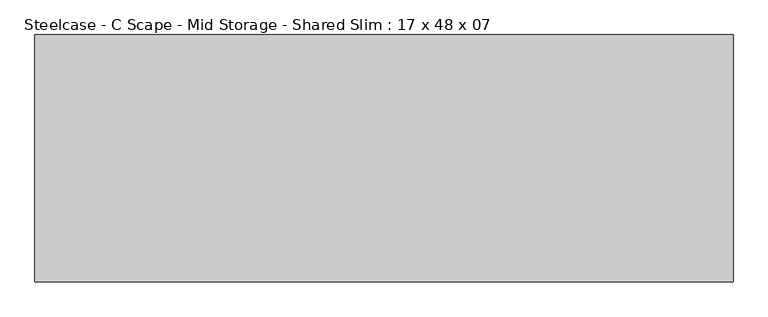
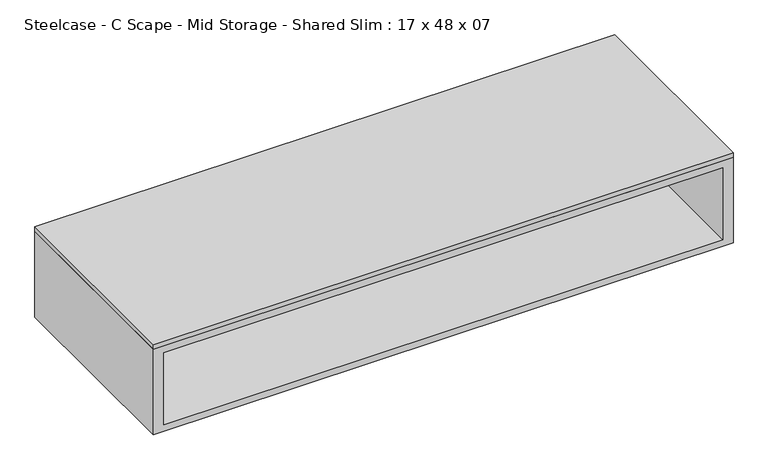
"""IFC4 building model written with IfcOpenShell, lengths in millimetres: furniture geometry, Steelcase - C Scape - Mid Storage - Shared Slim : 17 x 48 x 07."""

import ifcopenshell
import ifcopenshell.guid

model = None  # the IFC model being written
_history = None  # IfcOwnerHistory: only IFC2X3 demands one
_inside = {}  # id of a spatial element -> (the spatial element, [elements in it])
_under = {}  # id of a project, library or spatial element -> (it, [spatial elements below it])
_declared = {}  # id of a project -> (the project, [libraries it declares])
_typed = {}  # id of a type object -> (the type object, [elements of that type])
_made_of = {}  # id of a material, layer set ... -> (it, [elements and type objects made of it])


def new_model(schema):
    """Start an empty IFC model of exactly this schema.

    Asked for "IFC4X3", IfcOpenShell would pick the latest addendum, in which some entities
    have other attributes; the version numbers below select the first issue.
    IFC2X3 requires an IfcOwnerHistory on every rooted entity: one is made here for all.
    """
    global model, _history
    if schema == "IFC4X3":
        model = ifcopenshell.file(schema_version=(4, 3, 0, 0))
    else:
        model = ifcopenshell.file(schema=schema)
    _inside.clear()
    _under.clear()
    _declared.clear()
    _typed.clear()
    _made_of.clear()
    _history = None
    if model.schema == "IFC2X3":
        org = make("IfcOrganization", Name="unknown")
        user = make(
            "IfcPersonAndOrganization",
            ThePerson=make("IfcPerson", FamilyName="unknown"),
            TheOrganization=org,
        )
        app = make(
            "IfcApplication",
            ApplicationDeveloper=org,
            Version="unknown",
            ApplicationFullName="unknown",
            ApplicationIdentifier="unknown",
        )
        _history = make(
            "IfcOwnerHistory",
            OwningUser=user,
            OwningApplication=app,
            ChangeAction="ADDED",
            CreationDate=0,
        )
    return model


def make(cls, **values):
    """One entity of the class cls with the attributes given. An attribute that is None is left unset."""
    return model.create_entity(
        cls, **{name: value for name, value in values.items() if value is not None}
    )


def rooted(cls, **values):
    """An entity with a GlobalId (a new one), such as an element, a storey or a relation."""
    return make(cls, GlobalId=ifcopenshell.guid.new(), OwnerHistory=_history, **values)


def si_unit(unit_type, name, prefix=None):
    """IfcSIUnit, for example si_unit("LENGTHUNIT", "METRE", prefix="MILLI")."""
    return make("IfcSIUnit", UnitType=unit_type, Prefix=prefix, Name=name)


def assignment(units):
    """IfcUnitAssignment: the units of a project."""
    return None if units is None else make("IfcUnitAssignment", Units=units)


def point(xyz):
    """IfcCartesianPoint."""
    return None if xyz is None else make("IfcCartesianPoint", Coordinates=xyz)


def direction(xyz):
    """IfcDirection."""
    return None if xyz is None else make("IfcDirection", DirectionRatios=xyz)


def frame(location, z_axis=None, x_axis=None):
    """IfcAxis2Placement3D, a coordinate frame: its origin and axes. An axis left out is left unset."""
    return make(
        "IfcAxis2Placement3D",
        Location=point(location),
        Axis=direction(z_axis),
        RefDirection=direction(x_axis),
    )


def origin():
    """The frame at (0, 0, 0) with its axes left unset."""
    return frame((0.0, 0.0, 0.0))


def place(relative_to, where):
    """IfcLocalPlacement: puts the frame where relative to a parent placement (None: the world)."""
    return make(
        "IfcLocalPlacement", PlacementRelTo=relative_to, RelativePlacement=where
    )


def context(
    kind, dimensions, precision=None, world=None, true_north=None, identifier=None
):
    """IfcGeometricRepresentationContext, for example the 3D "Model" context."""
    return make(
        "IfcGeometricRepresentationContext",
        ContextIdentifier=identifier,
        ContextType=kind,
        CoordinateSpaceDimension=dimensions,
        Precision=precision,
        WorldCoordinateSystem=world,
        TrueNorth=true_north,
    )


def project(units=None, contexts=None):
    """IfcProject with its units and contexts."""
    return rooted(
        "IfcProject",
        Name="project",
        RepresentationContexts=contexts,
        UnitsInContext=assignment(units),
    )


def spatial(cls, under=None, at=None, **own):
    """A site, building, storey or space (cls), placed at a placement, below another one or the project."""
    s = rooted(cls, ObjectPlacement=at, **own)
    if under is not None:
        _under.setdefault(under.id(), (under, []))[1].append(s)
    return s


def polyline(points):
    """IfcPolyline through the points."""
    return make("IfcPolyline", Points=[point(p) for p in points])


def outline(outer, holes=None, kind="AREA"):
    """IfcArbitraryClosedProfileDef: a profile drawn as a closed curve; with holes, ...WithVoids."""
    if holes is None:
        return make("IfcArbitraryClosedProfileDef", ProfileType=kind, OuterCurve=outer)
    return make(
        "IfcArbitraryProfileDefWithVoids",
        ProfileType=kind,
        OuterCurve=outer,
        InnerCurves=holes,
    )


def extrude(swept, where, along, depth):
    """IfcExtrudedAreaSolid: the profile swept, set in the frame where, extruded along a direction by depth."""
    return make(
        "IfcExtrudedAreaSolid",
        SweptArea=swept,
        Position=where,
        ExtrudedDirection=direction(along),
        Depth=depth,
    )


def shape(context_of_items, identifier, shape_type, items):
    """IfcShapeRepresentation: the items that make up one representation, for example the "Body"."""
    return make(
        "IfcShapeRepresentation",
        ContextOfItems=context_of_items,
        RepresentationIdentifier=identifier,
        RepresentationType=shape_type,
        Items=items,
    )


def source(mapping_origin, context_of_items, identifier, shape_type, items):
    """IfcRepresentationMap: a shape defined once, which mapped items show again and again."""
    return make(
        "IfcRepresentationMap",
        MappingOrigin=mapping_origin,
        MappedRepresentation=shape(context_of_items, identifier, shape_type, items),
    )


def transform(
    local_origin,
    x_axis=None,
    y_axis=None,
    z_axis=None,
    scale=None,
    scale2=None,
    scale3=None,
    uniform=True,
):
    """IfcCartesianTransformationOperator3D, or its non-uniform kind. x_axis, y_axis, z_axis: its Axis1, 2, 3."""
    if uniform:
        return make(
            "IfcCartesianTransformationOperator3D",
            Axis1=direction(x_axis),
            Axis2=direction(y_axis),
            LocalOrigin=point(local_origin),
            Scale=scale,
            Axis3=direction(z_axis),
        )
    return make(
        "IfcCartesianTransformationOperator3DnonUniform",
        Axis1=direction(x_axis),
        Axis2=direction(y_axis),
        LocalOrigin=point(local_origin),
        Scale=scale,
        Axis3=direction(z_axis),
        Scale2=scale2,
        Scale3=scale3,
    )


def mapped(mapping_source, mapping_target):
    """IfcMappedItem: shows the shape of a source again, moved by a transform."""
    return make(
        "IfcMappedItem", MappingSource=mapping_source, MappingTarget=mapping_target
    )


def made_of(thing, what):
    """Note that an element or type object is made of a material, layer set ...; save() writes the relation."""
    if what is not None:
        _made_of.setdefault(what.id(), (what, []))[1].append(thing)
    return thing


def element(
    cls,
    number,
    at=None,
    inside=None,
    cuts=None,
    type_object=None,
    material=None,
    context=None,
    identifier="Body",
    shape_type=None,
    held_by="IfcProductDefinitionShape",
    body=None,
    shapes=None,
    **own,
):
    """One element of the class cls, such as IfcWall. Its Tag is "e" and its number.

    at: its placement. inside: the storey or other place that contains it. cuts: it is an
    opening in that element (IfcRelVoidsElement). A single representation is given by context,
    identifier, shape_type and body (its items); several are given by shapes. held_by: the class
    of the entity that holds the representations. save() writes the other relations.
    """
    e = rooted(cls, Tag="e%d" % number, ObjectPlacement=at, **own)
    if body is not None:
        shapes = [shape(context, identifier, shape_type, body)]
    if shapes is not None:
        e.Representation = make(held_by, Representations=shapes)
    if inside is not None:
        _inside.setdefault(inside.id(), (inside, []))[1].append(e)
    if cuts is not None:
        rooted(
            "IfcRelVoidsElement", RelatingBuildingElement=cuts, RelatedOpeningElement=e
        )
    if type_object is not None:
        _typed.setdefault(type_object.id(), (type_object, []))[1].append(e)
    return made_of(e, material)


def aggregate(whole, parts):
    """IfcRelAggregates: a whole, such as a stair, and the parts it consists of."""
    return rooted("IfcRelAggregates", RelatingObject=whole, RelatedObjects=parts)


def save(model, path):
    """Write the relations noted so far, then the file.

    IfcRelAggregates (storeys below a building ...), IfcRelContainedInSpatialStructure (elements
    in a storey), IfcRelDefinesByType, IfcRelAssociatesMaterial and IfcRelDeclares: one each for
    every whole, place, type object, material and project.
    """
    for whole, parts in _under.values():
        aggregate(whole, parts)
    for where, things in _inside.values():
        rooted(
            "IfcRelContainedInSpatialStructure",
            RelatedElements=things,
            RelatingStructure=where,
        )
    for kind, things in _typed.values():
        rooted("IfcRelDefinesByType", RelatedObjects=things, RelatingType=kind)
    for what, things in _made_of.values():
        rooted("IfcRelAssociatesMaterial", RelatedObjects=things, RelatingMaterial=what)
    for by, libraries in _declared.values():
        rooted("IfcRelDeclares", RelatingContext=by, RelatedDefinitions=libraries)
    model.write(path)


def steelcase_c_scape_mid_storage_shared_slim_17_x_48_x_07_0878906d(model_context):
    return source(origin(), model_context, "Body", "SweptSolid", [
        extrude(outline(polyline([(1219.2, 215.9), (1219.2, -215.9), (0.0, -215.9), (0.0, 215.9), (1219.2, 215.9)])), frame((0.0, 0.0, 1028.7), z_axis=(0.0, 0.0, 1.0), x_axis=(1.0, 0.0, 0.0)), (0.0, 0.0, 1.0), 10.16),
        extrude(outline(polyline([(1197.102, 3.1751841), (1197.102, -3.1744283), (21.9711633, -3.1744283), (21.9711633, 3.1751841), (1197.102, 3.1751841)])), frame((0.0, 0.0, 853.4399855), z_axis=(0.0, 0.0, 1.0), x_axis=(1.0, 0.0, 0.0)), (0.0, 0.0, 1.0), 160.0200145),
        extrude(outline(polyline([(1028.7, 1219.2), (1028.7, 0.0), (838.2, 0.0), (838.2, 1219.2), (1028.7, 1219.2)]), holes=[polyline([(1013.46, 1197.102), (853.4399855, 1197.102), (853.4399855, 21.9711633), (1013.46, 21.9711633), (1013.46, 1197.102)])]), frame((0.0, -215.9, 0.0), z_axis=(0.0, 1.0, 0.0), x_axis=(0.0, 0.0, 1.0)), (0.0, 0.0, 1.0), 431.8),
    ])


if __name__ == "__main__":
    model = new_model("IFC4")
    model_context = context("Model", 3, world=origin())
    ifc_project = project(units=[si_unit("LENGTHUNIT", "METRE", prefix="MILLI")], contexts=[model_context])
    site = spatial("IfcSite", under=ifc_project)
    building = spatial("IfcBuilding", under=site)
    placement = place(None, origin())
    steelcase_c_scape_mid_storage_shared_slim_17_x_48_x_07_shape = steelcase_c_scape_mid_storage_shared_slim_17_x_48_x_07_0878906d(model_context)
    element("IfcFurniture", 1, ObjectType="Steelcase - C Scape - Mid Storage - Shared Slim : 17 x 48 x 07", at=placement, inside=building, context=model_context, shape_type="MappedRepresentation", body=[
        mapped(steelcase_c_scape_mid_storage_shared_slim_17_x_48_x_07_shape, transform((0.0, 0.0, 0.0), x_axis=(1.0, 0.0, 0.0), y_axis=(0.0, 1.0, 0.0), z_axis=(0.0, 0.0, 1.0))),
    ])
    save(model, "model.ifc")
